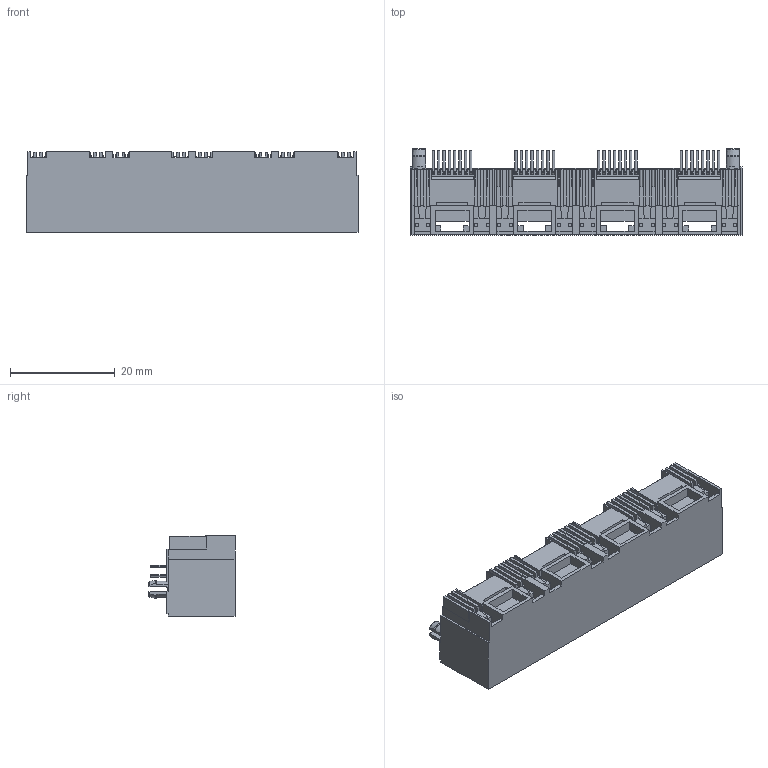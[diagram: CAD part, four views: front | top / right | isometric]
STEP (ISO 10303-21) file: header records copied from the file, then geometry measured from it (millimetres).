
FILE_DESCRIPTION((''),'2;1');
FILE_NAME('DGKYD561488IWA3DY1027','2023-11-10T15:52:56',('Administrator'),(''),'CREO PARAMETRIC BY PTC INC, 2019010','CREO PARAMETRIC BY PTC INC, 2019010','');
FILE_SCHEMA(('CONFIG_CONTROL_DESIGN'));
Products named in the file (1): DGKYD561488IWA3DY1027
Bounding box: 63.3 x 16.4 x 15.4 mm (x, y, z)
Volume: 5719 mm3; surface area: 12192.5 mm2
Topology: 1 solids, 2 shells, 3381 faces, 9402 edges, 5863 vertices
Faces by surface type: plane 1882, bspline 1168, cylinder 323, cone 4, torus 4
Entity records: 215748 total; most frequent: CARTESIAN_POINT 137880, ORIENTED_EDGE 18800, DIRECTION 11718, EDGE_CURVE 9400, VECTOR 6062, LINE 6062, VERTEX_POINT 5862, EDGE_LOOP 3496
